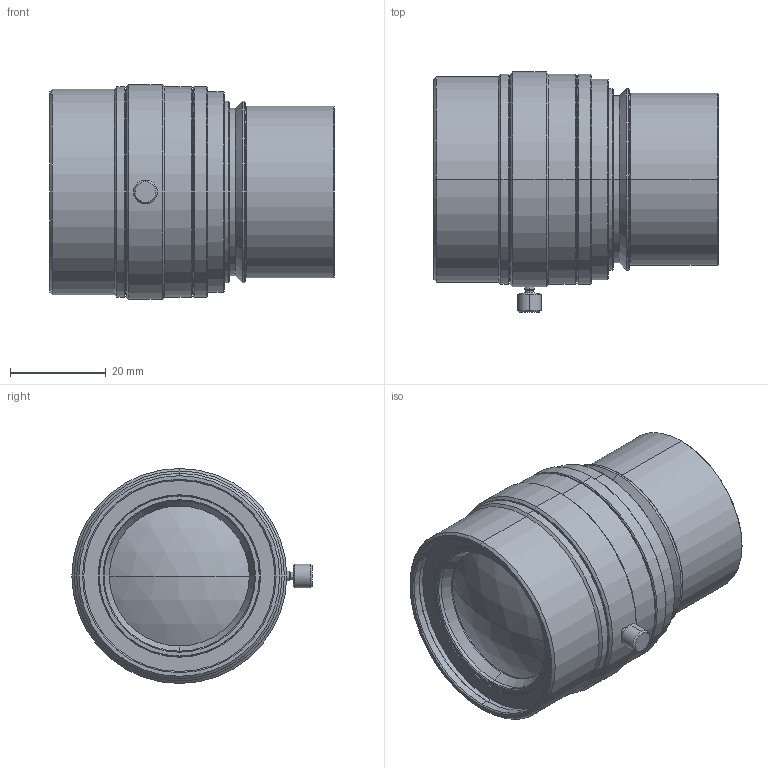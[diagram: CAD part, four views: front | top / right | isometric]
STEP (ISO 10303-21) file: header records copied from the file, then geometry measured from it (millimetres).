
FILE_DESCRIPTION (( 'STEP AP203' ), '1' );
FILE_NAME ('VS-L12056-075_V.STEP', '2016-06-08T08:00:57', ( 'miura_vst' ), ( '' ), 'SwSTEP 2.0', 'SolidWorks 2016', '' );
FILE_SCHEMA (( 'CONFIG_CONTROL_DESIGN' ));
Length unit declared in the file: millimetre
Products named in the file (1): VS-L12056-075_V
Bounding box: 59.5 x 50.3 x 45 mm (x, y, z)
Volume: 70622.2 mm3; surface area: 12558.1 mm2
Topology: 1 solids, 1 shells, 124 faces, 250 edges, 144 vertices
Faces by surface type: cone 64, cylinder 40, plane 16, sphere 4
Entity records: 3319 total; most frequent: DIRECTION 642, CARTESIAN_POINT 551, ORIENTED_EDGE 500, AXIS2_PLACEMENT_3D 269, EDGE_CURVE 250, CIRCLE 144, VERTEX_POINT 144, EDGE_LOOP 140
